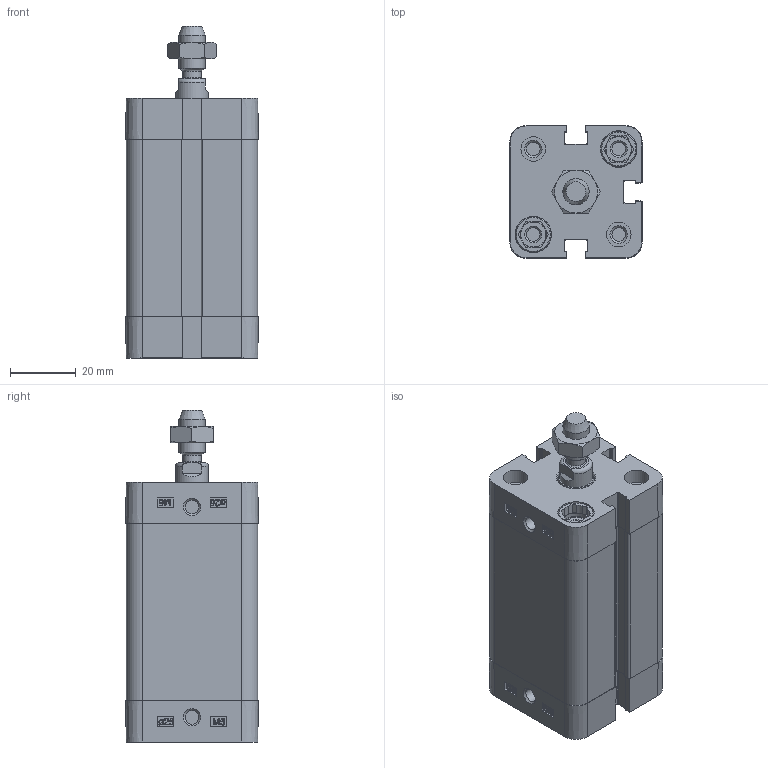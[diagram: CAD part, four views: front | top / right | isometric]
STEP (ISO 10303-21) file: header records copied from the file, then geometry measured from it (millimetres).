
FILE_DESCRIPTION(/* description */ ('Unknown'),/* implementation_level */ '2;1');
FILE_NAME(/* name */ 'ZIF 25_40',/* time_stamp */ '2025-01-27T08:33:33+01:00',/* author */ ('Unknown'),/* organization */ ('HAFNER Pneumatika Kft'),/* preprocessor_version */ 'ST-DEVELOPER v16.7',/* originating_system */ 'Solid Edge',/* authorisation */ 'Unknown');
FILE_SCHEMA (('AUTOMOTIVE_DESIGN {1 0 10303 214 3 1 1}'));
Length unit declared in the file: millimetre
Products named in the file (6): ZIF 25_40; Mutter; Profilrohr; Kolbenstange; Kit_2; Kit_1
Assembly tree (5 placements, depth 2):
  ZIF 25_40
    Mutter
    Profilrohr
    Kolbenstange
    Kit_2
    Kit_1
Bounding box: 40.3 x 40.3 x 101 mm (x, y, z)
Volume: 99024 mm3; surface area: 37056.4 mm2
Topology: 5 solids, 11 shells, 609 faces, 1603 edges, 1055 vertices
Faces by surface type: plane 307, cylinder 142, bspline 84, cone 58, torus 18
Full cylindrical faces by diameter (mm): 4.134 x10, 5.8 x1, 6.647 x1, 7.5 x4, 8 x9, 9 x1, 10 x1, 10.48 x1, 10.9 x4, 11.1 x4, 11.4 x1, 12 x1, 13.84 x1, 14 x1, 25 x2
Entity records: 22319 total; most frequent: CARTESIAN_POINT 4293, ORIENTED_EDGE 2958, DIRECTION 2710, EDGE_CURVE 1479, VERTEX_POINT 1025, AXIS2_PLACEMENT_3D 912, LINE 886, VECTOR 886
